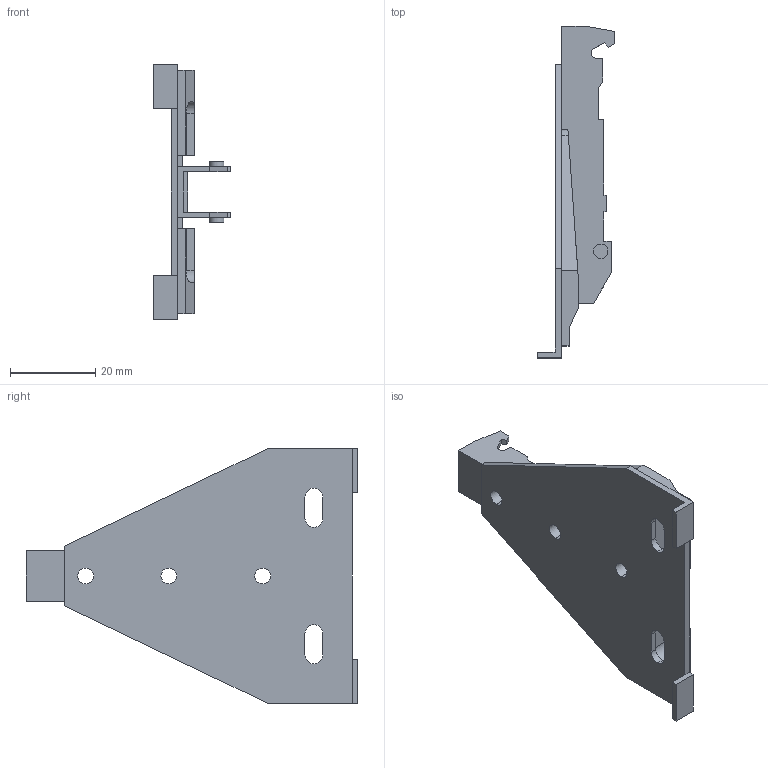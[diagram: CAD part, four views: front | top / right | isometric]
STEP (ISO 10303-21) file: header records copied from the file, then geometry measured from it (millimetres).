
FILE_DESCRIPTION (( 'STEP AP214' ), '1' );
FILE_NAME ('Eco Delta Spax_H 3,5.step', '2010-11-18T10:12:04', ( 'grass' ), ( '' ), 'SwSTEP 2.0', 'SolidWorks 2010', '' );
FILE_SCHEMA (( 'AUTOMOTIVE_DESIGN' ));
Length unit declared in the file: millimetre
Products named in the file (1): Eco Delta Spax_H 3,5
Bounding box: 18.2 x 77.75 x 60 mm (x, y, z)
Volume: 11341.9 mm3; surface area: 9849.5 mm2
Topology: 1 solids, 1 shells, 123 faces, 353 edges, 234 vertices
Faces by surface type: plane 98, cylinder 25
Entity records: 4036 total; most frequent: CARTESIAN_POINT 726, ORIENTED_EDGE 706, DIRECTION 643, EDGE_CURVE 353, LINE 301, VECTOR 301, VERTEX_POINT 234, AXIS2_PLACEMENT_3D 171
